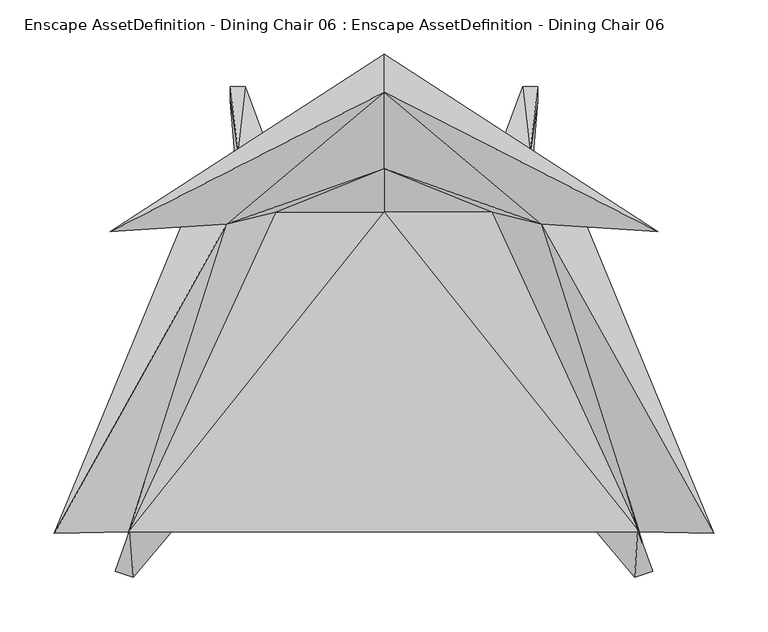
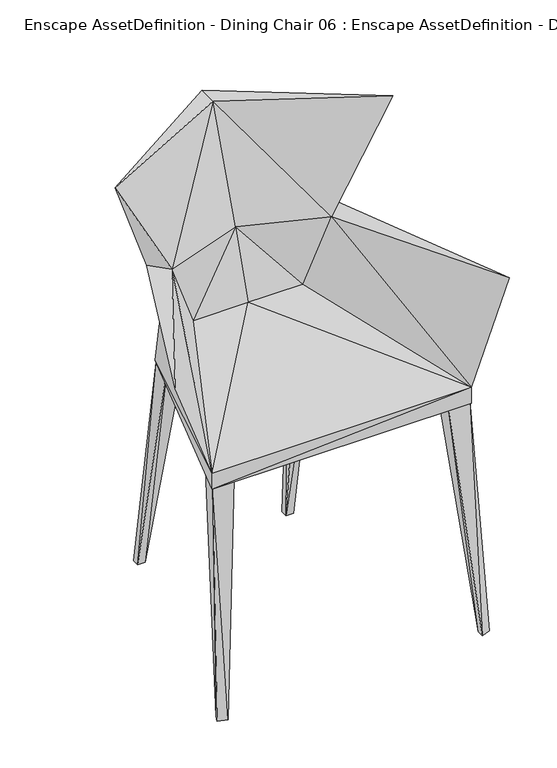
"""IFC4 building model written with IfcOpenShell, lengths in millimetres: geographic element geometry, Enscape AssetDefinition - Dining Chair 06 : Enscape AssetDefinition - Dining Chair 06."""

from ifc_helpers import new_model, si_unit, origin, place, context, project, spatial, faceted_brep, source, transform, mapped, element, save


def enscape_assetdefinition_dining_chair_06_enscape_9facff2e(model_context):
    return source(origin(), model_context, "Body", "Brep", [
        faceted_brep([(234.4340384, -185.060963, 417.6128209), (234.4340533, -185.060963, 448.1365383), (-234.4340384, -185.060963, 417.6128209), (132.3156655, 146.8207389, 546.1458564), (135.6856525, 164.4624174, 417.6128209), (302.4169803, -186.6403371, 634.5845461), (172.6174206, 127.7164817, 634.5845461), (99.3839726, 108.3788797, 514.4073963), (144.2869157, 97.4793062, 634.5845461), (-234.4340533, -185.060963, 448.1365383), (0.0, 108.3788797, 514.4073963), (0.0, 164.4624174, 417.6128209), (0.0, 146.8207389, 546.1458564), (-132.3156655, 146.8207389, 546.1458564), (-135.6856525, 164.4624174, 417.6128209), (-172.6174206, 127.7164817, 634.5845461), (0.0, 180.0191551, 634.5845461), (0.0, 253.2572746, 832.3023319), (251.4076829, 90.3675929, 832.3023319), (0.0, 218.4012681, 832.3023319), (-251.4076829, 90.3675929, 832.3023319), (-144.2869157, 97.4793062, 634.5845461), (0.0, 148.4320015, 634.5845461), (-99.3839726, 108.3788797, 514.4073963), (-302.4169803, -186.6403371, 634.5845461)], [[[0, 1, 2]], [[3, 1, 4]], [[5, 1, 6]], [[7, 1, 8]], [[9, 1, 10]], [[2, 1, 9]], [[4, 1, 0]], [[6, 1, 3]], [[8, 1, 5]], [[1, 7, 10]], [[4, 11, 3]], [[0, 11, 4]], [[11, 0, 2]], [[12, 11, 13]], [[11, 2, 14]], [[3, 11, 12]], [[13, 11, 14]], [[13, 14, 9]], [[13, 9, 15]], [[12, 13, 16]], [[16, 13, 15]], [[16, 3, 12]], [[16, 15, 17]], [[6, 3, 16]], [[17, 6, 16]], [[18, 17, 19]], [[19, 17, 20]], [[18, 6, 17]], [[17, 15, 20]], [[18, 8, 6]], [[6, 8, 5]], [[18, 19, 8]], [[20, 21, 19]], [[8, 19, 22]], [[19, 21, 22]], [[15, 21, 20]], [[23, 21, 9]], [[24, 21, 15]], [[9, 21, 24]], [[23, 22, 21]], [[8, 22, 7]], [[10, 22, 23]], [[7, 22, 10]], [[9, 10, 23]], [[9, 14, 2]], [[15, 9, 24]]]),
        faceted_brep([(-140.8926398, 223.7090021, 0.0), (-134.3672723, 163.1956547, 422.2064912), (-127.4887174, 223.7090021, 0.0), (-134.3672723, 129.9765408, 422.2064912), (-140.8926398, 210.4994208, 0.0), (-104.848884, 129.9765408, 422.2064912), (-104.848884, 163.1956697, 422.2064912), (-127.4887174, 210.4994208, 0.0)], [[[0, 1, 2]], [[3, 1, 4]], [[3, 5, 1]], [[2, 1, 6]], [[4, 1, 0]], [[1, 5, 6]], [[6, 7, 2]], [[7, 0, 2]], [[4, 0, 7]], [[4, 7, 3]], [[3, 7, 5]], [[5, 7, 6]]]),
        faceted_brep([(-246.5315163, -221.5032876, 1.99e-05), (-233.1156582, -183.8560253, 422.2064912), (-241.3945645, -209.2755139, 1.99e-05), (-193.8422471, -183.8560253, 422.2064912), (-230.1572263, -226.6948074, 3.98e-05), (-220.2112675, -139.7455931, 422.2064912), (-193.8422471, -151.6110003, 422.206521), (-230.1572263, -214.4670188, 1.99e-05)], [[[0, 1, 2]], [[3, 1, 4]], [[5, 1, 6]], [[2, 1, 5]], [[4, 1, 0]], [[6, 1, 3]], [[5, 6, 2]], [[2, 6, 7]], [[7, 0, 2]], [[4, 0, 7]], [[7, 3, 4]], [[6, 3, 7]]]),
        faceted_brep([(104.848884, 129.9765408, 422.2064912), (104.848884, 163.1956697, 422.2064912), (127.4887174, 210.4994208, 0.0), (134.2522055, 163.1956547, 422.2064912), (127.4887174, 223.7090021, 0.0), (134.2522055, 129.9765408, 422.2064912), (140.8926398, 210.4994208, 0.0), (140.8926398, 223.7090021, 0.0)], [[[0, 1, 2]], [[1, 0, 3]], [[2, 1, 4]], [[3, 4, 1]], [[0, 2, 5]], [[5, 2, 6]], [[4, 6, 2]], [[3, 0, 5]], [[7, 4, 3]], [[7, 3, 6]], [[6, 3, 5]], [[7, 6, 4]]]),
        faceted_brep([(193.8422471, -183.8560253, 422.2064912), (230.1572263, -226.6948074, 3.98e-05), (233.0005914, -183.8560253, 422.2064912), (230.1572263, -214.4670188, 1.99e-05), (246.5315163, -221.5032876, 1.99e-05), (220.0962156, -139.7455931, 422.2064912), (241.3945645, -209.2755139, 1.99e-05), (193.8422471, -151.6110003, 422.206521)], [[[0, 1, 2]], [[1, 3, 4]], [[2, 1, 4]], [[0, 3, 1]], [[5, 2, 6]], [[5, 7, 2]], [[6, 2, 4]], [[2, 7, 0]], [[7, 3, 0]], [[7, 6, 3]], [[4, 3, 6]], [[5, 6, 7]]]),
    ])


if __name__ == "__main__":
    model = new_model("IFC4")
    model_context = context("Model", 3, world=origin())
    ifc_project = project(units=[si_unit("LENGTHUNIT", "METRE", prefix="MILLI")], contexts=[model_context])
    site = spatial("IfcSite", under=ifc_project)
    building = spatial("IfcBuilding", under=site)
    placement = place(None, origin())
    enscape_assetdefinition_dining_chair_06_enscape_shape = enscape_assetdefinition_dining_chair_06_enscape_9facff2e(model_context)
    element("IfcGeographicElement", 1, ObjectType="Enscape AssetDefinition - Dining Chair 06 : Enscape AssetDefinition - Dining Chair 06", at=placement, inside=building, context=model_context, shape_type="MappedRepresentation", body=[
        mapped(enscape_assetdefinition_dining_chair_06_enscape_shape, transform((0.0, 0.0, 0.0), x_axis=(1.0, 0.0, 0.0), y_axis=(0.0, 1.0, 0.0), z_axis=(0.0, 0.0, 1.0))),
    ])
    save(model, "model.ifc")
